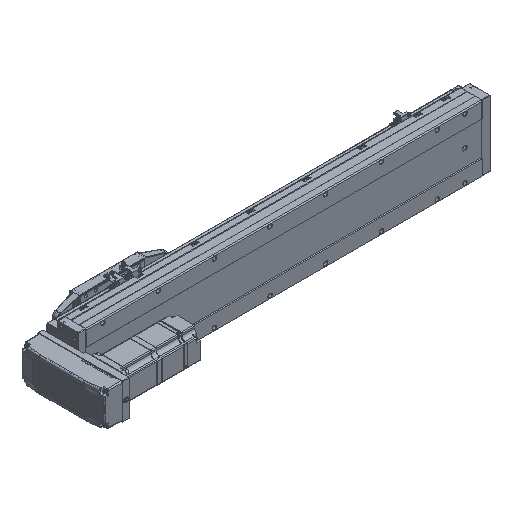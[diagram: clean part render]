
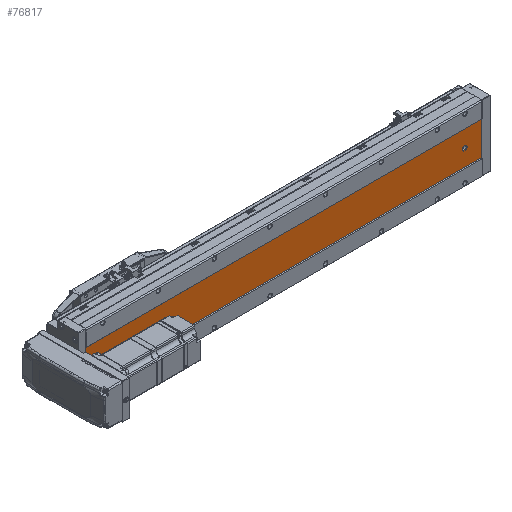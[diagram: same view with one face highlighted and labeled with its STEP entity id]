
A CAD part, isometric view. The second image highlights one B-rep face of the part: STEP entity #76817.
In plain terms, the highlighted planar face has unit normal (0, -1, 0).
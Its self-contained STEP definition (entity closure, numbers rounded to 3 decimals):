
#182 = VECTOR ( 'NONE', #59373, 1000. ) ;
#1479 = CIRCLE ( 'NONE', #41870, 3.5 ) ;
#1543 = EDGE_CURVE ( 'NONE', #48562, #44330, #4811, .T. ) ;
#2364 = CARTESIAN_POINT ( 'NONE',  ( -39.892, -52.848, 30. ) ) ;
#2679 = CARTESIAN_POINT ( 'NONE',  ( -39.892, -52.848, 26.5 ) ) ;
#4811 = CIRCLE ( 'NONE', #73013, 3.5 ) ;
#5187 = CARTESIAN_POINT ( 'NONE',  ( -39.892, -52.848, 30. ) ) ;
#5730 = ORIENTED_EDGE ( 'NONE', *, *, #57102, .F. ) ;
#6984 = CARTESIAN_POINT ( 'NONE',  ( -39.892, -52.848, 577.5 ) ) ;
#9256 = DIRECTION ( 'NONE',  ( 0., 0., 1. ) ) ;
#10611 = EDGE_CURVE ( 'NONE', #40003, #22291, #26717, .T. ) ;
#10945 = DIRECTION ( 'NONE',  ( 0., 0., -1. ) ) ;
#12407 = LINE ( 'NONE', #44617, #39363 ) ;
#12429 = DIRECTION ( 'NONE',  ( 0., 0., 1. ) ) ;
#13688 = ORIENTED_EDGE ( 'NONE', *, *, #1543, .T. ) ;
#13811 = DIRECTION ( 'NONE',  ( 0., 1., 0. ) ) ;
#14708 = DIRECTION ( 'NONE',  ( 0., 1., 0. ) ) ;
#15590 = VERTEX_POINT ( 'NONE', #28911 ) ;
#16292 = DIRECTION ( 'NONE',  ( 0., 0., 1. ) ) ;
#16303 = DIRECTION ( 'NONE',  ( 0., 0., 1. ) ) ;
#16991 = DIRECTION ( 'NONE',  ( 0., 0., 1. ) ) ;
#17486 = CARTESIAN_POINT ( 'NONE',  ( -39.892, -52.848, 681. ) ) ;
#17591 = DIRECTION ( 'NONE',  ( 0., 1., 0. ) ) ;
#17674 = CARTESIAN_POINT ( 'NONE',  ( -69.892, -52.848, 0. ) ) ;
#19328 = FACE_BOUND ( 'NONE', #60190, .T. ) ;
#19460 = AXIS2_PLACEMENT_3D ( 'NONE', #5187, #34317, #16303 ) ;
#19512 = LINE ( 'NONE', #64052, #75425 ) ;
#20078 = CIRCLE ( 'NONE', #19460, 3.5 ) ;
#20476 = ORIENTED_EDGE ( 'NONE', *, *, #42694, .T. ) ;
#21958 = EDGE_CURVE ( 'NONE', #15590, #68626, #46398, .T. ) ;
#22291 = VERTEX_POINT ( 'NONE', #51590 ) ;
#22881 = EDGE_CURVE ( 'NONE', #44330, #48562, #32363, .T. ) ;
#23135 = FACE_BOUND ( 'NONE', #40682, .T. ) ;
#23143 = VECTOR ( 'NONE', #57906, 1000. ) ;
#23582 = EDGE_CURVE ( 'NONE', #22291, #27509, #1479, .T. ) ;
#24021 = FACE_BOUND ( 'NONE', #74043, .T. ) ;
#24933 = VERTEX_POINT ( 'NONE', #47499 ) ;
#25503 = VERTEX_POINT ( 'NONE', #35932 ) ;
#25707 = EDGE_CURVE ( 'NONE', #67851, #66564, #12407, .T. ) ;
#26717 = LINE ( 'NONE', #74252, #31365 ) ;
#27509 = VERTEX_POINT ( 'NONE', #2679 ) ;
#28310 = CARTESIAN_POINT ( 'NONE',  ( -36.392, -52.848, 32. ) ) ;
#28689 = ORIENTED_EDGE ( 'NONE', *, *, #59273, .F. ) ;
#28911 = CARTESIAN_POINT ( 'NONE',  ( -39.892, -52.848, 684.5 ) ) ;
#30360 = EDGE_LOOP ( 'NONE', ( #38393, #28689, #5730, #40867 ) ) ;
#30948 = ORIENTED_EDGE ( 'NONE', *, *, #23582, .T. ) ;
#31365 = VECTOR ( 'NONE', #38363, 1000. ) ;
#32319 = DIRECTION ( 'NONE',  ( 0., 0., 1. ) ) ;
#32363 = CIRCLE ( 'NONE', #49325, 3.5 ) ;
#33662 = CARTESIAN_POINT ( 'NONE',  ( -39.892, -52.848, 584.5 ) ) ;
#34317 = DIRECTION ( 'NONE',  ( 0., 1., 0. ) ) ;
#34468 = DIRECTION ( 'NONE',  ( 0., 1., 0. ) ) ;
#35682 = CARTESIAN_POINT ( 'NONE',  ( -9.892, -52.848, 0. ) ) ;
#35932 = CARTESIAN_POINT ( 'NONE',  ( -9.892, -52.848, 711. ) ) ;
#36245 = AXIS2_PLACEMENT_3D ( 'NONE', #61463, #67414, #37749 ) ;
#37749 = DIRECTION ( 'NONE',  ( 0., 0., 1. ) ) ;
#38363 = DIRECTION ( 'NONE',  ( 0., 0., -1. ) ) ;
#38393 = ORIENTED_EDGE ( 'NONE', *, *, #65732, .T. ) ;
#39363 = VECTOR ( 'NONE', #68808, 1000. ) ;
#39443 = ORIENTED_EDGE ( 'NONE', *, *, #10611, .T. ) ;
#39910 = LINE ( 'NONE', #51143, #23143 ) ;
#40003 = VERTEX_POINT ( 'NONE', #28310 ) ;
#40244 = ORIENTED_EDGE ( 'NONE', *, *, #21958, .T. ) ;
#40682 = EDGE_LOOP ( 'NONE', ( #45237, #13688 ) ) ;
#40867 = ORIENTED_EDGE ( 'NONE', *, *, #41558, .T. ) ;
#41072 = AXIS2_PLACEMENT_3D ( 'NONE', #64240, #75675, #16292 ) ;
#41558 = EDGE_CURVE ( 'NONE', #24933, #48003, #39910, .T. ) ;
#41870 = AXIS2_PLACEMENT_3D ( 'NONE', #2364, #13811, #32319 ) ;
#42694 = EDGE_CURVE ( 'NONE', #27509, #67851, #20078, .T. ) ;
#44330 = VERTEX_POINT ( 'NONE', #6984 ) ;
#44617 = CARTESIAN_POINT ( 'NONE',  ( -43.392, -52.848, 711. ) ) ;
#45237 = ORIENTED_EDGE ( 'NONE', *, *, #22881, .T. ) ;
#46398 = CIRCLE ( 'NONE', #76209, 3.5 ) ;
#47499 = CARTESIAN_POINT ( 'NONE',  ( -69.892, -52.848, 711. ) ) ;
#47983 = VECTOR ( 'NONE', #72274, 1000. ) ;
#48003 = VERTEX_POINT ( 'NONE', #62299 ) ;
#48533 = ORIENTED_EDGE ( 'NONE', *, *, #71226, .T. ) ;
#48562 = VERTEX_POINT ( 'NONE', #33662 ) ;
#48643 = ORIENTED_EDGE ( 'NONE', *, *, #51606, .T. ) ;
#49325 = AXIS2_PLACEMENT_3D ( 'NONE', #52795, #71002, #53543 ) ;
#51143 = CARTESIAN_POINT ( 'NONE',  ( -69.892, -52.848, 711. ) ) ;
#51406 = CIRCLE ( 'NONE', #36245, 3.5 ) ;
#51590 = CARTESIAN_POINT ( 'NONE',  ( -36.392, -52.848, 30. ) ) ;
#51606 = EDGE_CURVE ( 'NONE', #68626, #15590, #75297, .T. ) ;
#51990 = CARTESIAN_POINT ( 'NONE',  ( -43.392, -52.848, 32. ) ) ;
#52795 = CARTESIAN_POINT ( 'NONE',  ( -39.892, -52.848, 581. ) ) ;
#53543 = DIRECTION ( 'NONE',  ( 0., 0., 1. ) ) ;
#57102 = EDGE_CURVE ( 'NONE', #24933, #25503, #62898, .T. ) ;
#57906 = DIRECTION ( 'NONE',  ( 0., 0., -1. ) ) ;
#59273 = EDGE_CURVE ( 'NONE', #25503, #59478, #19512, .T. ) ;
#59373 = DIRECTION ( 'NONE',  ( 1., 0., 0. ) ) ;
#59478 = VERTEX_POINT ( 'NONE', #35682 ) ;
#60190 = EDGE_LOOP ( 'NONE', ( #48533, #39443, #30948, #20476, #67212 ) ) ;
#61280 = FACE_OUTER_BOUND ( 'NONE', #30360, .T. ) ;
#61463 = CARTESIAN_POINT ( 'NONE',  ( -39.892, -52.848, 32. ) ) ;
#62119 = CARTESIAN_POINT ( 'NONE',  ( -69.892, -52.848, 711. ) ) ;
#62299 = CARTESIAN_POINT ( 'NONE',  ( -69.892, -52.848, 0. ) ) ;
#62898 = LINE ( 'NONE', #66287, #47983 ) ;
#64052 = CARTESIAN_POINT ( 'NONE',  ( -9.892, -52.848, 711. ) ) ;
#64240 = CARTESIAN_POINT ( 'NONE',  ( -39.892, -52.848, 681. ) ) ;
#65732 = EDGE_CURVE ( 'NONE', #48003, #59478, #66271, .T. ) ;
#65811 = CARTESIAN_POINT ( 'NONE',  ( -43.392, -52.848, 30. ) ) ;
#66271 = LINE ( 'NONE', #17674, #182 ) ;
#66287 = CARTESIAN_POINT ( 'NONE',  ( -69.892, -52.848, 711. ) ) ;
#66564 = VERTEX_POINT ( 'NONE', #51990 ) ;
#67212 = ORIENTED_EDGE ( 'NONE', *, *, #25707, .T. ) ;
#67414 = DIRECTION ( 'NONE',  ( 0., 1., 0. ) ) ;
#67544 = PLANE ( 'NONE',  #72062 ) ;
#67851 = VERTEX_POINT ( 'NONE', #65811 ) ;
#68626 = VERTEX_POINT ( 'NONE', #75314 ) ;
#68808 = DIRECTION ( 'NONE',  ( 0., 0., 1. ) ) ;
#71002 = DIRECTION ( 'NONE',  ( 0., 1., 0. ) ) ;
#71226 = EDGE_CURVE ( 'NONE', #66564, #40003, #51406, .T. ) ;
#71256 = CARTESIAN_POINT ( 'NONE',  ( -39.892, -52.848, 581. ) ) ;
#72062 = AXIS2_PLACEMENT_3D ( 'NONE', #62119, #14708, #9256 ) ;
#72274 = DIRECTION ( 'NONE',  ( 1., 0., 0. ) ) ;
#73013 = AXIS2_PLACEMENT_3D ( 'NONE', #71256, #17591, #12429 ) ;
#74043 = EDGE_LOOP ( 'NONE', ( #48643, #40244 ) ) ;
#74252 = CARTESIAN_POINT ( 'NONE',  ( -36.392, -52.848, 711. ) ) ;
#75297 = CIRCLE ( 'NONE', #41072, 3.5 ) ;
#75314 = CARTESIAN_POINT ( 'NONE',  ( -39.892, -52.848, 677.5 ) ) ;
#75425 = VECTOR ( 'NONE', #10945, 1000. ) ;
#75675 = DIRECTION ( 'NONE',  ( 0., 1., 0. ) ) ;
#76209 = AXIS2_PLACEMENT_3D ( 'NONE', #17486, #34468, #16991 ) ;
#76817 = ADVANCED_FACE ( 'NONE', ( #19328, #23135, #24021, #61280 ), #67544, .F. ) ;
